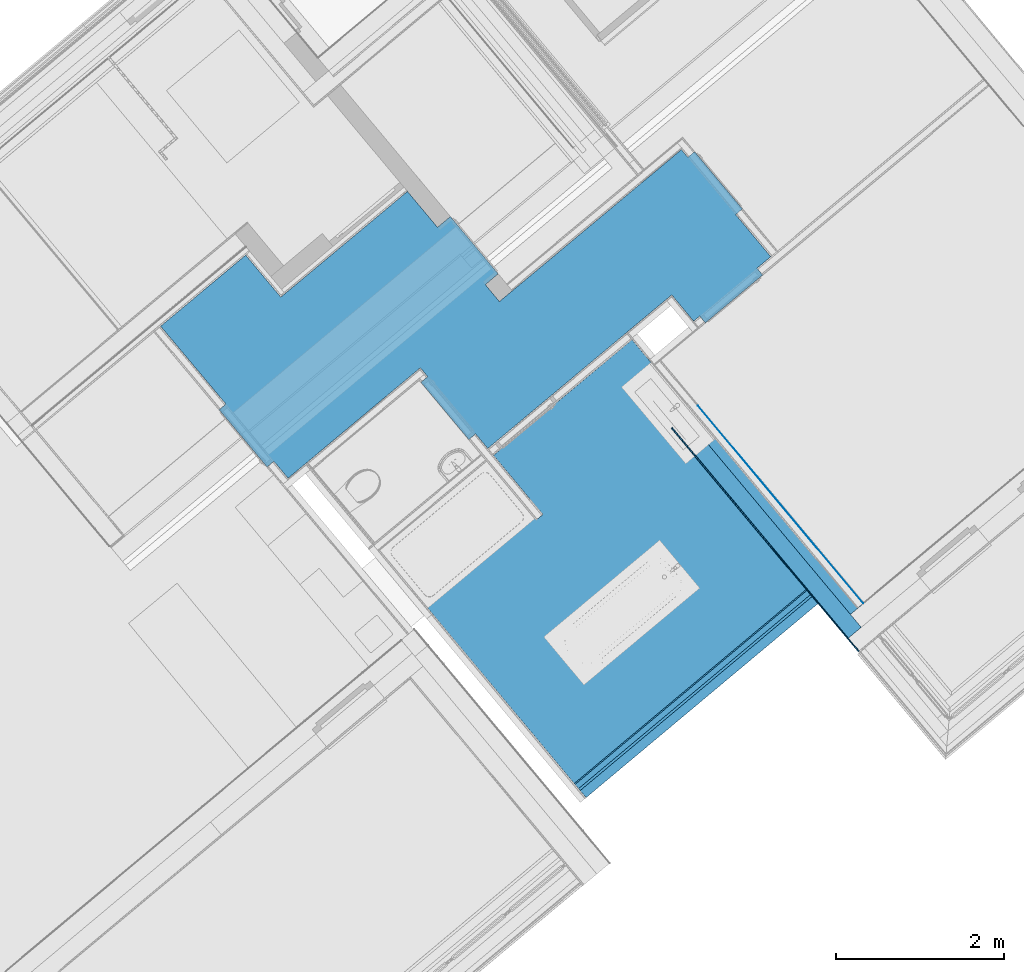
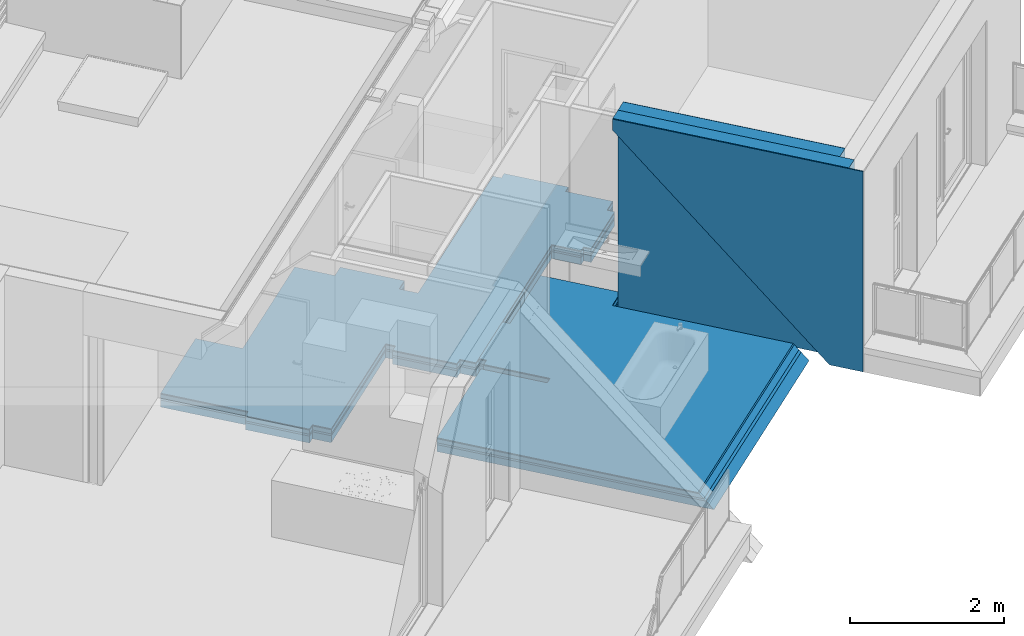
# One storey, part 26 of 50: 12 building element parts, 3 elements without a shape of their own.
"""IFC4 building model written with IfcOpenShell, lengths in metres."""

from ifc_helpers import new_model, entity, si_unit, converted_unit, derived_unit, direction, frame, origin_with_axes, place, context, subcontext, project, spatial, polygons, material, type_object, element, aggregate, save


model = new_model("IFC4")

# Units and contexts
model_context = context("Model", 3, precision=1e-05, world=origin_with_axes(), true_north=direction((0.0, 1.0)))
body_context = subcontext(model_context, "Body", "Model", "MODEL_VIEW")
ifc_project = project(units=[si_unit("LENGTHUNIT", "METRE"), si_unit("AREAUNIT", "SQUARE_METRE"), si_unit("VOLUMEUNIT", "CUBIC_METRE"), converted_unit("PLANEANGLEUNIT", "DEGREE", entity("IfcPlaneAngleMeasure", 0.0174532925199), si_unit("PLANEANGLEUNIT", "RADIAN"), dimensions=[0, 0, 0, 0, 0, 0, 0]), converted_unit("TIMEUNIT", "Year", entity("IfcTimeMeasure", 31556926.0), si_unit("TIMEUNIT", "SECOND"), dimensions=[0, 0, 1, 0, 0, 0, 0]), si_unit("MASSUNIT", "GRAM", prefix="KILO"), si_unit("THERMODYNAMICTEMPERATUREUNIT", "DEGREE_CELSIUS"), si_unit("LUMINOUSINTENSITYUNIT", "LUMEN"), si_unit("ENERGYUNIT", "JOULE", prefix="MEGA"), derived_unit("THERMALCONDUCTANCEUNIT", [(si_unit("POWERUNIT", "WATT"), 1), (si_unit("LENGTHUNIT", "METRE"), -1), (si_unit("THERMODYNAMICTEMPERATUREUNIT", "KELVIN"), -1)]), derived_unit("SPECIFICHEATCAPACITYUNIT", [(si_unit("ENERGYUNIT", "JOULE"), 1), (si_unit("MASSUNIT", "GRAM", prefix="KILO"), -1), (si_unit("THERMODYNAMICTEMPERATUREUNIT", "KELVIN"), -1)]), derived_unit("MASSDENSITYUNIT", [(si_unit("MASSUNIT", "GRAM", prefix="KILO"), 1), (si_unit("VOLUMEUNIT", "CUBIC_METRE"), -1)])], contexts=[model_context])

# Site, building, storey, space
site_placement = place(None, frame((-0.00153261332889, -0.00661245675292, 0.0), z_axis=(0.0, 0.0, 1.0), x_axis=(1.0, 0.0, 0.0)))
site = spatial("IfcSite", under=ifc_project, at=site_placement, Name="Gelände", CompositionType="ELEMENT")
building_placement = place(site_placement, origin_with_axes())
building = spatial("IfcBuilding", under=site, at=building_placement, Name="Gebäude", CompositionType="ELEMENT")
storey_placement = place(building_placement, frame((0.0, 0.0, 8.66), z_axis=(0.0, 0.0, 1.0), x_axis=(1.0, 0.0, 0.0)))
storey = spatial("IfcBuildingStorey", under=building, at=storey_placement, Name="DG2", CompositionType="ELEMENT", Elevation=8.66)
space_placement = place(storey_placement, frame((2.09467668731, 18.9197573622, 0.22), z_axis=(0.0, 0.0, 1.0), x_axis=(0.640870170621, -0.76764928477, 0.0)))
space = spatial("IfcSpace", under=storey, at=space_placement, CompositionType="ELEMENT", PredefinedType="NOTDEFINED")

# Wall, building element parts
wall_type = type_object("IfcWallType", Name="AW EG 420", PredefinedType="NOTDEFINED")
wall_placement = place(space_placement, frame((4.59525163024, 4.02347308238, -0.22), z_axis=(0.0, 0.0, 1.0), x_axis=(-0.999999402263, -0.0010933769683, 0.0)))
wall = element("IfcWall", 1, at=wall_placement, inside=space, type_object=wall_type, Name="Wand-002", PredefinedType="NOTDEFINED")
ifc_material_1 = material(Name="Zementputz")
building_element_part_1_placement = place(wall_placement, origin_with_axes())
building_element_part_1 = element("IfcBuildingElementPart", 2, at=building_element_part_1_placement, material=ifc_material_1, Name="Zementputz", PredefinedType="NOTDEFINED", context=body_context, shape_type="Tessellation", body=[
    polygons([(0.479130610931, 0.42, 0.0), (0.479129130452, 0.405, 0.0), (0.015, 0.405, 0.0), (0.015, 0.42, 0.0), (3.48674085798, 0.405, 3.00761171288), (3.48674085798, 0.42, 3.0076102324), (3.48674085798, 0.405, 3.18), (0.015, 0.405, 3.18), (0.015, 0.42, 3.18), (3.48674085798, 0.42, 3.18)], [[[1, 2, 3, 4]], [[5, 2, 1, 6]], [[2, 5, 7, 8, 3]], [[3, 8, 9, 4]], [[6, 1, 4, 9, 10]], [[5, 6, 10, 7]], [[8, 7, 10, 9]]], closed=True),
])
ifc_material_2 = material(Name="EPS 1")
building_element_part_2_placement = place(wall_placement, origin_with_axes())
building_element_part_2 = element("IfcBuildingElementPart", 3, at=building_element_part_2_placement, material=ifc_material_2, Name="EPS 1", PredefinedType="NOTDEFINED", context=body_context, shape_type="Tessellation", body=[
    polygons([(0.479129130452, 0.405, 0.0), (0.479109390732, 0.205, 0.0), (0.215, 0.205, 0.0), (0.215, 0.405, 0.0), (3.48674085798, 0.205, 3.0076314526), (3.48674085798, 0.405, 3.00761171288), (3.48674085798, 0.205, 3.18), (0.215, 0.205, 3.18), (0.215, 0.405, 3.18), (3.48674085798, 0.405, 3.18)], [[[1, 2, 3, 4]], [[5, 2, 1, 6]], [[2, 5, 7, 8, 3]], [[3, 8, 9, 4]], [[6, 1, 4, 9, 10]], [[5, 6, 10, 7]], [[8, 7, 10, 9]]], closed=True),
])
ifc_material_3 = material(Name="Stahlbeton Wand")
building_element_part_3_placement = place(wall_placement, origin_with_axes())
building_element_part_3 = element("IfcBuildingElementPart", 4, at=building_element_part_3_placement, material=ifc_material_3, Name="Stahlbeton Wand", PredefinedType="NOTDEFINED", context=body_context, shape_type="Tessellation", body=[
    polygons([(0.479109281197, 0.199813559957, 0.0), (3.48674085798, 0.198685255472, 0.0), (3.48674085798, 0.005, 0.0), (0.415, 0.005, 0.0), (0.415, 0.205, 0.0), (0.479109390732, 0.205, 0.0), (3.48674085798, 0.198685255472, 3.00763167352), (3.48674085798, 0.205, 3.0076314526), (3.48674085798, 0.205, 3.18), (3.48674085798, 0.005, 3.18), (0.415, 0.005, 3.18), (0.415, 0.205, 3.18)], [[[1, 2, 3, 4, 5, 6]], [[2, 1, 7]], [[7, 8, 9, 10, 3, 2]], [[4, 3, 10, 11]], [[4, 11, 12, 5]], [[8, 6, 5, 12, 9]], [[1, 6, 8, 7]], [[11, 10, 9, 12]]], closed=True),
])
building_element_part_4_placement = place(wall_placement, origin_with_axes())
building_element_part_4 = element("IfcBuildingElementPart", 5, at=building_element_part_4_placement, material=ifc_material_1, Name="Zementputz", PredefinedType="NOTDEFINED", context=body_context, shape_type="Tessellation", body=[
    polygons([(0.42, 0.0, 3.18), (3.48674085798, 0.0, 3.18), (3.48674085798, 0.005, 3.18), (0.42, 0.005, 3.18), (0.42, 0.0, 0.0), (3.48674085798, 0.0, 0.0), (3.48674085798, 0.005, 0.0), (0.42, 0.005, 0.0)], [[[1, 2, 3, 4]], [[5, 6, 2, 1]], [[3, 2, 6, 7]], [[4, 3, 7, 8]], [[5, 1, 4, 8]], [[8, 7, 6, 5]]], closed=True),
])
aggregate(wall, [building_element_part_1, building_element_part_2, building_element_part_3, building_element_part_4])

# Covering, building element parts
covering_type = type_object("IfcCoveringType", Name="DE 01 Decke Wohnung/Wohnung Fließen 220", PredefinedType="NOTDEFINED")
covering_1_placement = place(storey_placement, frame((-0.512281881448, 21.5903619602, 0.22), z_axis=(0.0, 0.0, 1.0), x_axis=(1.0, 0.0, 0.0)))
covering_1 = element("IfcCovering", 6, at=covering_1_placement, inside=storey, type_object=covering_type, Name="Decke-004", PredefinedType="NOTDEFINED")
ifc_material_4 = material(Name="Fliesen")
building_element_part_5_placement = place(covering_1_placement, origin_with_axes())
building_element_part_5 = element("IfcBuildingElementPart", 7, at=building_element_part_5_placement, material=ifc_material_4, Name="Fliesen", PredefinedType="NOTDEFINED", context=body_context, shape_type="Tessellation", body=[
    polygons([(1.26931301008, -1.67686102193, -0.015), (1.34976423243, -1.60938804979, -0.015), (1.34976423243, -1.60938804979, 0.0), (1.26931301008, -1.67686102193, 0.0), (0.697399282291, -0.994941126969, -0.015), (0.777850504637, -0.927468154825, -0.015), (0.0, 0.0, -0.015), (1.00913106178, 0.843125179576, -0.015), (1.01392494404, 0.847130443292, -0.015), (1.43208123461, 0.346703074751, -0.015), (1.4435962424, 0.356315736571, -0.015), (2.94076864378, 1.60614434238, -0.015), (3.29799445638, 1.17824883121, -0.015), (3.29801715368, 1.17827549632, -0.015), (3.45152463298, 1.30642248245, -0.015), (3.45155114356, 1.30644458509, -0.015), (4.02190344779, 0.623218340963, -0.015), (3.86836945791, 0.49504925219, -0.015), (4.03594835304, 0.29430602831, -0.015), (6.2030162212, 2.103358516, -0.015), (6.27925010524, 2.0121231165, -0.015), (6.35982447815, 2.07944889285, -0.015), (6.93049131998, 1.39648530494, -0.015), (6.84991694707, 1.32915942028, -0.015), (7.26867794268, 0.827993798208, -0.015), (7.10397840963, 0.690371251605, -0.015), (7.17130548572, 0.609797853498, -0.015), (6.48834980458, 0.0391213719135, -0.015), (6.42102283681, 0.119694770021, -0.015), (6.34875262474, 0.0593058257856, -0.015), (6.0975408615, 0.361146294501, -0.015), (6.09756346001, 0.361165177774, -0.015), (6.08796586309, 0.372651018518, -0.015), (6.0764348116, 0.363057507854, -0.015), (6.01642744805, 0.312915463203, -0.015), (3.89695327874, -1.4568744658, -0.015), (3.75186403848, -1.2832433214, -0.015), (3.67129139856, -1.35057126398, -0.015), (3.10060711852, -0.667622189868, -0.015), (3.18117975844, -0.600294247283, -0.015), (3.09378704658, -0.495709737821, -0.015), (1.51874814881, -1.81087559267, -0.015), (1.51874814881, -1.81087559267, 0.0), (0.697399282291, -0.994941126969, 0.0), (3.09378704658, -0.495709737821, 0.0), (3.18117975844, -0.600294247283, 0.0), (3.10060711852, -0.667622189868, 0.0), (3.67129139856, -1.35057126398, 0.0), (3.75186403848, -1.2832433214, 0.0), (3.89695327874, -1.4568744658, 0.0), (6.01642744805, 0.312915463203, 0.0), (6.0764348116, 0.363057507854, 0.0), (6.08794747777, 0.372635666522, 0.0), (6.08796586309, 0.372651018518, 0.0), (6.09756346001, 0.361165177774, 0.0), (6.0975408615, 0.361146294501, 0.0), (6.34875262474, 0.0593058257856, 0.0), (6.42102283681, 0.119694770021, 0.0), (6.48834980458, 0.0391213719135, 0.0), (7.17130548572, 0.609797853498, 0.0), (7.10397840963, 0.690371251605, 0.0), (7.26867794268, 0.827993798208, 0.0), (6.84991694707, 1.32915942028, 0.0), (6.93049131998, 1.39648530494, 0.0), (6.35982447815, 2.07944889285, 0.0), (6.27925010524, 2.0121231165, 0.0), (6.2030162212, 2.103358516, 0.0), (4.03594835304, 0.29430602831, 0.0), (3.86836945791, 0.49504925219, 0.0), (4.02190344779, 0.623218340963, 0.0), (3.45155114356, 1.30644458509, 0.0), (3.45152463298, 1.30642248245, 0.0), (3.29801715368, 1.17827549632, 0.0), (3.29799445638, 1.17824883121, 0.0), (2.94076864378, 1.60614434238, 0.0), (1.4435962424, 0.35631573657, 0.0), (1.43208123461, 0.346703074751, 0.0), (1.01392494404, 0.847130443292, 0.0), (1.00913106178, 0.843125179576, 0.0), (0.0, 0.0, 0.0), (0.777850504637, -0.927468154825, 0.0)], [[[1, 2, 3, 4]], [[2, 1, 5, 6, 7, 8, 9, 10, 11, 12, 13, 14, 15, 16, 17, 18, 19, 20, 21, 22, 23, 24, 25, 26, 27, 28, 29, 30, 31, 32, 33, 34, 35, 36, 37, 38, 39, 40, 41, 42]], [[2, 42, 43, 3]], [[44, 4, 3, 43, 45, 46, 47, 48, 49, 50, 51, 52, 53, 54, 55, 56, 57, 58, 59, 60, 61, 62, 63, 64, 65, 66, 67, 68, 69, 70, 71, 72, 73, 74, 75, 76, 77, 78, 79, 80, 81]], [[1, 4, 44, 5]], [[5, 44, 81, 6]], [[7, 6, 81, 80]], [[7, 80, 79, 78, 9, 8]], [[77, 10, 9, 78]], [[10, 77, 76, 11]], [[11, 76, 75, 12]], [[74, 13, 12, 75]], [[14, 13, 74, 73]], [[15, 14, 73, 72]], [[16, 15, 72, 71]], [[17, 16, 71, 70]], [[69, 18, 17, 70]], [[19, 18, 69, 68]], [[19, 68, 67, 20]], [[21, 20, 67, 66]], [[22, 21, 66, 65]], [[23, 22, 65, 64]], [[63, 24, 23, 64]], [[62, 25, 24, 63]], [[61, 26, 25, 62]], [[27, 26, 61, 60]], [[59, 28, 27, 60]], [[29, 28, 59, 58]], [[30, 29, 58, 57]], [[56, 31, 30, 57]], [[32, 31, 56, 55]], [[32, 55, 54, 33]], [[34, 33, 54, 53, 52]], [[35, 34, 52, 51]], [[36, 35, 51, 50]], [[37, 36, 50, 49]], [[38, 37, 49, 48]], [[39, 38, 48, 47]], [[40, 39, 47, 46]], [[40, 46, 45, 41]], [[43, 42, 41, 45]]], closed=True),
])
ifc_material_5 = material(Name="Estrich")
building_element_part_6_placement = place(covering_1_placement, origin_with_axes())
building_element_part_6 = element("IfcBuildingElementPart", 8, at=building_element_part_6_placement, material=ifc_material_5, Name="Estrich", PredefinedType="NOTDEFINED", context=body_context, shape_type="Tessellation", body=[
    polygons([(1.26931301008, -1.67686102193, -0.08), (1.34976423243, -1.60938804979, -0.08), (1.34976423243, -1.60938804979, -0.015), (1.26931301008, -1.67686102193, -0.015), (0.697399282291, -0.994941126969, -0.08), (0.777850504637, -0.927468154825, -0.08), (0.0, 0.0, -0.08), (1.00913106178, 0.843125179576, -0.08), (1.01392494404, 0.847130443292, -0.08), (1.43208123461, 0.346703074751, -0.08), (1.4435962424, 0.356315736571, -0.08), (2.94076864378, 1.60614434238, -0.08), (3.29799445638, 1.17824883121, -0.08), (3.29801715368, 1.17827549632, -0.08), (3.45152463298, 1.30642248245, -0.08), (3.45155114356, 1.30644458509, -0.08), (4.02190344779, 0.623218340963, -0.08), (3.86836945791, 0.49504925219, -0.08), (4.03594835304, 0.29430602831, -0.08), (6.2030162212, 2.103358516, -0.08), (6.27925010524, 2.0121231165, -0.08), (6.35982447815, 2.07944889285, -0.08), (6.93049131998, 1.39648530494, -0.08), (6.84991694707, 1.32915942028, -0.08), (7.26867794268, 0.827993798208, -0.08), (7.10397840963, 0.690371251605, -0.08), (7.17130548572, 0.609797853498, -0.08), (6.48834980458, 0.0391213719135, -0.08), (6.42102283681, 0.119694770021, -0.08), (6.34875262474, 0.0593058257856, -0.08), (6.0975408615, 0.361146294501, -0.08), (6.09756346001, 0.361165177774, -0.08), (6.08796586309, 0.372651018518, -0.08), (6.0764348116, 0.363057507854, -0.08), (6.01642744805, 0.312915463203, -0.08), (3.89695327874, -1.4568744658, -0.08), (3.75186403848, -1.2832433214, -0.08), (3.67129139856, -1.35057126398, -0.08), (3.10060711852, -0.667622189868, -0.08), (3.18117975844, -0.600294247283, -0.08), (3.09378704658, -0.495709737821, -0.08), (1.51874814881, -1.81087559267, -0.08), (1.51874814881, -1.81087559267, -0.015), (3.09378704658, -0.495709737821, -0.015), (3.18117975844, -0.600294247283, -0.015), (3.10060711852, -0.667622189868, -0.015), (3.67129139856, -1.35057126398, -0.015), (3.75186403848, -1.2832433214, -0.015), (3.89695327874, -1.4568744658, -0.015), (6.01642744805, 0.312915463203, -0.015), (6.0764348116, 0.363057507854, -0.015), (6.08796586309, 0.372651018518, -0.015), (6.09756346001, 0.361165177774, -0.015), (6.0975408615, 0.361146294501, -0.015), (6.34875262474, 0.0593058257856, -0.015), (6.42102283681, 0.119694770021, -0.015), (6.48834980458, 0.0391213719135, -0.015), (7.17130548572, 0.609797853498, -0.015), (7.10397840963, 0.690371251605, -0.015), (7.26867794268, 0.827993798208, -0.015), (6.84991694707, 1.32915942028, -0.015), (6.93049131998, 1.39648530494, -0.015), (6.35982447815, 2.07944889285, -0.015), (6.27925010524, 2.0121231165, -0.015), (6.2030162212, 2.103358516, -0.015), (4.03594835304, 0.29430602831, -0.015), (3.86836945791, 0.49504925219, -0.015), (4.02190344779, 0.623218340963, -0.015), (3.45155114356, 1.30644458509, -0.015), (3.45152463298, 1.30642248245, -0.015), (3.29801715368, 1.17827549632, -0.015), (3.29799445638, 1.17824883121, -0.015), (2.94076864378, 1.60614434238, -0.015), (1.4435962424, 0.356315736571, -0.015), (1.43208123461, 0.346703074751, -0.015), (1.01392494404, 0.847130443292, -0.015), (1.00913106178, 0.843125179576, -0.015), (0.0, 0.0, -0.015), (0.777850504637, -0.927468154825, -0.015), (0.697399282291, -0.994941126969, -0.015)], [[[1, 2, 3, 4]], [[2, 1, 5, 6, 7, 8, 9, 10, 11, 12, 13, 14, 15, 16, 17, 18, 19, 20, 21, 22, 23, 24, 25, 26, 27, 28, 29, 30, 31, 32, 33, 34, 35, 36, 37, 38, 39, 40, 41, 42]], [[2, 42, 43, 3]], [[4, 3, 43, 44, 45, 46, 47, 48, 49, 50, 51, 52, 53, 54, 55, 56, 57, 58, 59, 60, 61, 62, 63, 64, 65, 66, 67, 68, 69, 70, 71, 72, 73, 74, 75, 76, 77, 78, 79, 80]], [[80, 5, 1, 4]], [[5, 80, 79, 6]], [[7, 6, 79, 78]], [[7, 78, 77, 76, 9, 8]], [[75, 10, 9, 76]], [[10, 75, 74, 11]], [[11, 74, 73, 12]], [[72, 13, 12, 73]], [[13, 72, 71, 14]], [[14, 71, 70, 15]], [[16, 15, 70, 69]], [[17, 16, 69, 68]], [[67, 18, 17, 68]], [[19, 18, 67, 66]], [[19, 66, 65, 20]], [[21, 20, 65, 64]], [[22, 21, 64, 63]], [[23, 22, 63, 62]], [[24, 23, 62, 61]], [[25, 24, 61, 60]], [[26, 25, 60, 59]], [[58, 27, 26, 59]], [[57, 28, 27, 58]], [[29, 28, 57, 56]], [[30, 29, 56, 55]], [[54, 31, 30, 55]], [[32, 31, 54, 53]], [[32, 53, 52, 33]], [[34, 33, 52, 51]], [[35, 34, 51, 50]], [[36, 35, 50, 49]], [[37, 36, 49, 48]], [[38, 37, 48, 47]], [[39, 38, 47, 46]], [[40, 39, 46, 45]], [[41, 40, 45, 44]], [[43, 42, 41, 44]]], closed=True),
])
ifc_material_6 = material(Name="Trittschalldämmung")
building_element_part_7_placement = place(covering_1_placement, origin_with_axes())
building_element_part_7 = element("IfcBuildingElementPart", 9, at=building_element_part_7_placement, material=ifc_material_6, Name="Trittschalldämmung", PredefinedType="NOTDEFINED", context=body_context, shape_type="Tessellation", body=[
    polygons([(1.26931301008, -1.67686102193, -0.11), (1.34976423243, -1.60938804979, -0.11), (1.34976423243, -1.60938804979, -0.08), (1.26931301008, -1.67686102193, -0.08), (0.697399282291, -0.994941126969, -0.11), (0.777850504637, -0.927468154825, -0.11), (0.0, 0.0, -0.11), (1.00913106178, 0.843125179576, -0.11), (1.01392494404, 0.847130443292, -0.11), (1.43208123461, 0.346703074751, -0.11), (1.4435962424, 0.356315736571, -0.11), (2.94076864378, 1.60614434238, -0.11), (3.29799445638, 1.17824883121, -0.11), (3.29801715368, 1.17827549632, -0.11), (3.45152463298, 1.30642248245, -0.11), (3.45155114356, 1.30644458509, -0.11), (4.02190344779, 0.623218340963, -0.11), (3.86836945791, 0.49504925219, -0.11), (4.03594835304, 0.29430602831, -0.11), (6.2030162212, 2.103358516, -0.11), (6.27925010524, 2.0121231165, -0.11), (6.35982447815, 2.07944889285, -0.11), (6.93049131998, 1.39648530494, -0.11), (6.84991694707, 1.32915942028, -0.11), (7.26867794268, 0.827993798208, -0.11), (7.10397840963, 0.690371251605, -0.11), (7.17130548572, 0.609797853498, -0.11), (6.48834980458, 0.0391213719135, -0.11), (6.42102283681, 0.119694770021, -0.11), (6.34875262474, 0.0593058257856, -0.11), (6.0975408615, 0.361146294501, -0.11), (6.09756346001, 0.361165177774, -0.11), (6.08796586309, 0.372651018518, -0.11), (6.0764348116, 0.363057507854, -0.11), (6.01642744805, 0.312915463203, -0.11), (3.89695327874, -1.4568744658, -0.11), (3.75186403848, -1.2832433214, -0.11), (3.67129139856, -1.35057126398, -0.11), (3.10060711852, -0.667622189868, -0.11), (3.18117975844, -0.600294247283, -0.11), (3.09378704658, -0.495709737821, -0.11), (1.51874814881, -1.81087559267, -0.11), (1.51874814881, -1.81087559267, -0.08), (3.09378704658, -0.495709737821, -0.08), (3.18117975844, -0.600294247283, -0.08), (3.10060711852, -0.667622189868, -0.08), (3.67129139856, -1.35057126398, -0.08), (3.75186403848, -1.2832433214, -0.08), (3.89695327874, -1.4568744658, -0.08), (6.01642744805, 0.312915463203, -0.08), (6.0764348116, 0.363057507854, -0.08), (6.08796586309, 0.372651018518, -0.08), (6.09756346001, 0.361165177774, -0.08), (6.0975408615, 0.361146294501, -0.08), (6.34875262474, 0.0593058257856, -0.08), (6.42102283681, 0.119694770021, -0.08), (6.48834980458, 0.0391213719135, -0.08), (7.17130548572, 0.609797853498, -0.08), (7.10397840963, 0.690371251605, -0.08), (7.26867794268, 0.827993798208, -0.08), (6.84991694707, 1.32915942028, -0.08), (6.93049131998, 1.39648530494, -0.08), (6.35982447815, 2.07944889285, -0.08), (6.27925010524, 2.0121231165, -0.08), (6.2030162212, 2.103358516, -0.08), (4.03594835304, 0.29430602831, -0.08), (3.86836945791, 0.49504925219, -0.08), (4.02190344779, 0.623218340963, -0.08), (3.45155114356, 1.30644458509, -0.08), (3.45152463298, 1.30642248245, -0.08), (3.29801715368, 1.17827549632, -0.08), (3.29799445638, 1.17824883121, -0.08), (2.94076864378, 1.60614434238, -0.08), (1.4435962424, 0.356315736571, -0.08), (1.43208123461, 0.346703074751, -0.08), (1.01392494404, 0.847130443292, -0.08), (1.00913106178, 0.843125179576, -0.08), (0.0, 0.0, -0.08), (0.777850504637, -0.927468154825, -0.08), (0.697399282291, -0.994941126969, -0.08)], [[[1, 2, 3, 4]], [[2, 1, 5, 6, 7, 8, 9, 10, 11, 12, 13, 14, 15, 16, 17, 18, 19, 20, 21, 22, 23, 24, 25, 26, 27, 28, 29, 30, 31, 32, 33, 34, 35, 36, 37, 38, 39, 40, 41, 42]], [[2, 42, 43, 3]], [[4, 3, 43, 44, 45, 46, 47, 48, 49, 50, 51, 52, 53, 54, 55, 56, 57, 58, 59, 60, 61, 62, 63, 64, 65, 66, 67, 68, 69, 70, 71, 72, 73, 74, 75, 76, 77, 78, 79, 80]], [[80, 5, 1, 4]], [[5, 80, 79, 6]], [[7, 6, 79, 78]], [[7, 78, 77, 76, 9, 8]], [[75, 10, 9, 76]], [[10, 75, 74, 11]], [[11, 74, 73, 12]], [[72, 13, 12, 73]], [[13, 72, 71, 14]], [[14, 71, 70, 15]], [[16, 15, 70, 69]], [[17, 16, 69, 68]], [[67, 18, 17, 68]], [[19, 18, 67, 66]], [[19, 66, 65, 20]], [[21, 20, 65, 64]], [[22, 21, 64, 63]], [[23, 22, 63, 62]], [[24, 23, 62, 61]], [[60, 25, 24, 61]], [[59, 26, 25, 60]], [[27, 26, 59, 58]], [[57, 28, 27, 58]], [[29, 28, 57, 56]], [[30, 29, 56, 55]], [[54, 31, 30, 55]], [[32, 31, 54, 53]], [[32, 53, 52, 33]], [[34, 33, 52, 51]], [[35, 34, 51, 50]], [[36, 35, 50, 49]], [[37, 36, 49, 48]], [[38, 37, 48, 47]], [[39, 38, 47, 46]], [[40, 39, 46, 45]], [[41, 40, 45, 44]], [[43, 42, 41, 44]]], closed=True),
])
ifc_material_7 = material(Name="Schüttung")
building_element_part_8_placement = place(covering_1_placement, origin_with_axes())
building_element_part_8 = element("IfcBuildingElementPart", 10, at=building_element_part_8_placement, material=ifc_material_7, Name="Schüttung", PredefinedType="NOTDEFINED", context=body_context, shape_type="Tessellation", body=[
    polygons([(0.697399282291, -0.994941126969, -0.22), (1.26931301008, -1.67686102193, -0.22), (1.26931301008, -1.67686102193, -0.11), (0.697399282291, -0.994941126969, -0.11), (0.777850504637, -0.927468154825, -0.22), (0.0, 0.0, -0.22), (1.00913106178, 0.843125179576, -0.22), (1.01392494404, 0.847130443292, -0.22), (1.43208123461, 0.346703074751, -0.22), (1.44359623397, 0.356315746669, -0.22), (2.94076863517, 1.6061443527, -0.22), (3.29799445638, 1.17824883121, -0.22), (3.29801715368, 1.17827549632, -0.22), (3.4515246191, 1.30642249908, -0.22), (3.45155114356, 1.30644458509, -0.22), (4.02190344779, 0.623218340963, -0.22), (3.86836945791, 0.49504925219, -0.22), (4.03594835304, 0.29430602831, -0.22), (6.2030162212, 2.103358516, -0.22), (6.27925010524, 2.0121231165, -0.22), (6.35982447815, 2.07944889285, -0.22), (6.93049131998, 1.39648530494, -0.22), (6.84991694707, 1.32915942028, -0.22), (7.26867794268, 0.827993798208, -0.22), (7.10397840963, 0.690371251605, -0.22), (7.17130548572, 0.609797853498, -0.22), (6.48834980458, 0.0391213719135, -0.22), (6.42102283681, 0.119694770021, -0.22), (6.34875262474, 0.0593058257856, -0.22), (6.09754084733, 0.36114628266, -0.22), (6.09756346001, 0.361165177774, -0.22), (6.08796586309, 0.372651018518, -0.22), (6.08794747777, 0.372635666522, -0.22), (6.0764348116, 0.363057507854, -0.22), (6.01642744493, 0.312915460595, -0.22), (3.89695327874, -1.4568744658, -0.22), (3.75186403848, -1.2832433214, -0.22), (3.67129139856, -1.35057126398, -0.22), (3.10060711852, -0.667622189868, -0.22), (3.18117975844, -0.600294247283, -0.22), (3.09378704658, -0.495709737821, -0.22), (1.51874814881, -1.81087559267, -0.22), (1.34976423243, -1.60938804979, -0.22), (1.34976423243, -1.60938804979, -0.11), (1.51874814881, -1.81087559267, -0.11), (3.09378704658, -0.495709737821, -0.11), (3.18117975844, -0.600294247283, -0.11), (3.10060711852, -0.667622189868, -0.11), (3.67129139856, -1.35057126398, -0.11), (3.75186403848, -1.2832433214, -0.11), (3.89695327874, -1.4568744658, -0.11), (6.01642744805, 0.312915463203, -0.11), (6.0764348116, 0.363057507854, -0.11), (6.08796586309, 0.372651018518, -0.11), (6.09756346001, 0.361165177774, -0.11), (6.0975408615, 0.361146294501, -0.11), (6.34875262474, 0.0593058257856, -0.11), (6.42102283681, 0.119694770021, -0.11), (6.48834980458, 0.0391213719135, -0.11), (7.17130548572, 0.609797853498, -0.11), (7.10397840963, 0.690371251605, -0.11), (7.26867794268, 0.827993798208, -0.11), (6.84991694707, 1.32915942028, -0.11), (6.93049131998, 1.39648530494, -0.11), (6.35982447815, 2.07944889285, -0.11), (6.27925010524, 2.0121231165, -0.11), (6.2030162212, 2.103358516, -0.11), (4.03594835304, 0.29430602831, -0.11), (3.86836945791, 0.49504925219, -0.11), (4.02190344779, 0.623218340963, -0.11), (3.45155114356, 1.30644458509, -0.11), (3.45152463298, 1.30642248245, -0.11), (3.29801715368, 1.17827549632, -0.11), (3.29799445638, 1.17824883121, -0.11), (2.94076864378, 1.60614434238, -0.11), (1.4435962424, 0.356315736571, -0.11), (1.43208123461, 0.346703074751, -0.11), (1.01392494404, 0.847130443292, -0.11), (1.00913106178, 0.843125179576, -0.11), (0.0, 0.0, -0.11), (0.777850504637, -0.927468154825, -0.11)], [[[1, 2, 3, 4]], [[2, 1, 5, 6, 7, 8, 9, 10, 11, 12, 13, 14, 15, 16, 17, 18, 19, 20, 21, 22, 23, 24, 25, 26, 27, 28, 29, 30, 31, 32, 33, 34, 35, 36, 37, 38, 39, 40, 41, 42, 43]], [[2, 43, 44, 3]], [[3, 44, 45, 46, 47, 48, 49, 50, 51, 52, 53, 54, 55, 56, 57, 58, 59, 60, 61, 62, 63, 64, 65, 66, 67, 68, 69, 70, 71, 72, 73, 74, 75, 76, 77, 78, 79, 80, 81, 4]], [[5, 1, 4, 81]], [[6, 5, 81, 80]], [[6, 80, 79, 78, 8, 7]], [[77, 9, 8, 78]], [[9, 77, 76, 10]], [[10, 76, 75, 11]], [[74, 12, 11, 75]], [[13, 12, 74, 73]], [[13, 73, 72, 14]], [[15, 14, 72, 71]], [[16, 15, 71, 70]], [[17, 16, 70, 69]], [[18, 17, 69, 68]], [[18, 68, 67, 19]], [[20, 19, 67, 66]], [[21, 20, 66, 65]], [[22, 21, 65, 64]], [[23, 22, 64, 63]], [[24, 23, 63, 62]], [[25, 24, 62, 61]], [[60, 26, 25, 61]], [[27, 26, 60, 59]], [[28, 27, 59, 58]], [[29, 28, 58, 57]], [[56, 30, 29, 57]], [[31, 30, 56, 55]], [[31, 55, 54, 32]], [[54, 53, 34, 33, 32]], [[35, 34, 53, 52]], [[36, 35, 52, 51]], [[37, 36, 51, 50]], [[38, 37, 50, 49]], [[39, 38, 49, 48]], [[40, 39, 48, 47]], [[41, 40, 47, 46]], [[45, 42, 41, 46]], [[43, 42, 45, 44]]], closed=True),
])
aggregate(covering_1, [building_element_part_5, building_element_part_6, building_element_part_7, building_element_part_8])

covering_2_placement = place(storey_placement, frame((2.09467668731, 18.9197573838, 0.22), z_axis=(0.0, 0.0, 1.0), x_axis=(1.0, 0.0, 0.0)))
covering_2 = element("IfcCovering", 11, at=covering_2_placement, inside=storey, type_object=covering_type, Name="Decke-004", PredefinedType="NOTDEFINED")
building_element_part_9_placement = place(covering_2_placement, origin_with_axes())
building_element_part_9 = element("IfcBuildingElementPart", 12, at=building_element_part_9_placement, material=ifc_material_4, Name="Fliesen", PredefinedType="NOTDEFINED", context=body_context, shape_type="Tessellation", body=[
    polygons([(5.08131622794, -0.465412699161, 0.0), (5.09094186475, -0.476916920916, -0.015), (3.47398432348, 1.4556137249, -0.015), (3.47398432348, 1.4556137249, 0.0), (2.32907797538, -2.787318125, -0.015), (2.3194598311, -2.77580763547, 0.0), (-1.06147570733e-08, -8.86967299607e-09, -0.015), (1.2767194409, 1.06586618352, -0.015), (1.86547422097, 0.361291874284, -0.015), (1.94604688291, 0.428619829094, -0.015), (1.35732264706, 1.13315751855, -0.015), (1.4371327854, 1.19978686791, -0.015), (1.36984145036, 1.28038999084, -0.015), (2.05304928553, 1.85076447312, -0.015), (2.12034062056, 1.77016126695, -0.015), (3.00782256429, 2.51107347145, -0.015), (3.25962648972, 2.20972776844, -0.015), (3.26924463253, 2.19821728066, -0.015), (3.71929949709, 1.66087009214, -0.015), (3.71929949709, 1.66087009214, 0.0), (3.26924463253, 2.19821728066, 0.0), (3.25962648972, 2.20972776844, 0.0), (3.00782256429, 2.51107347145, 0.0), (2.12034062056, 1.77016126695, 0.0), (2.05304928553, 1.85076447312, 0.0), (1.36984145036, 1.28038999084, 0.0), (1.4371327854, 1.19978686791, 0.0), (1.35732264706, 1.13315751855, 0.0), (1.94604688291, 0.428619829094, 0.0), (1.86547422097, 0.361291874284, 0.0), (1.2767194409, 1.06586618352, 0.0), (-1.06147570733e-08, -8.86967299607e-09, 0.0)], [[[1, 2, 3, 4]], [[5, 2, 1, 6]], [[2, 5, 7, 8, 9, 10, 11, 12, 13, 14, 15, 16, 17, 18, 19, 3]], [[3, 19, 20, 4]], [[6, 1, 4, 20, 21, 22, 23, 24, 25, 26, 27, 28, 29, 30, 31, 32]], [[5, 6, 32, 7]], [[8, 7, 32, 31]], [[30, 9, 8, 31]], [[29, 10, 9, 30]], [[28, 11, 10, 29]], [[27, 12, 11, 28]], [[26, 13, 12, 27]], [[25, 14, 13, 26]], [[24, 15, 14, 25]], [[24, 23, 16, 15]], [[16, 23, 22, 17]], [[18, 17, 22, 21]], [[19, 18, 21, 20]]], closed=True),
])
building_element_part_10_placement = place(covering_2_placement, origin_with_axes())
building_element_part_10 = element("IfcBuildingElementPart", 13, at=building_element_part_10_placement, material=ifc_material_5, Name="Estrich", PredefinedType="NOTDEFINED", context=body_context, shape_type="Tessellation", body=[
    polygons([(5.09094186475, -0.476916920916, -0.015), (5.13265295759, -0.526768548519, -0.08), (3.47398432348, 1.4556137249, -0.08), (3.47398432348, 1.4556137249, -0.015), (2.37075660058, -2.83719691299, -0.08), (2.32907797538, -2.787318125, -0.015), (-1.06147570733e-08, -8.86967299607e-09, -0.08), (1.2767194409, 1.06586618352, -0.08), (1.86547422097, 0.361291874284, -0.08), (1.94604688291, 0.428619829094, -0.08), (1.35732264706, 1.13315751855, -0.08), (1.4371327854, 1.19978686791, -0.08), (1.36984145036, 1.28038999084, -0.08), (2.05304928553, 1.85076447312, -0.08), (2.12034062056, 1.77016126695, -0.08), (3.00782256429, 2.51107347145, -0.08), (3.25962648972, 2.20972776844, -0.08), (3.26924463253, 2.19821728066, -0.08), (3.71929949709, 1.66087009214, -0.08), (3.71929949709, 1.66087009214, -0.015), (3.26924463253, 2.19821728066, -0.015), (3.25962648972, 2.20972776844, -0.015), (3.00782256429, 2.51107347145, -0.015), (2.12034062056, 1.77016126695, -0.015), (2.05304928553, 1.85076447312, -0.015), (1.36984145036, 1.28038999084, -0.015), (1.4371327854, 1.19978686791, -0.015), (1.35732264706, 1.13315751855, -0.015), (1.94604688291, 0.428619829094, -0.015), (1.86547422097, 0.361291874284, -0.015), (1.2767194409, 1.06586618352, -0.015), (-1.06147570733e-08, -8.86967299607e-09, -0.015)], [[[1, 2, 3, 4]], [[5, 2, 1, 6]], [[2, 5, 7, 8, 9, 10, 11, 12, 13, 14, 15, 16, 17, 18, 19, 3]], [[3, 19, 20, 4]], [[6, 1, 4, 20, 21, 22, 23, 24, 25, 26, 27, 28, 29, 30, 31, 32]], [[5, 6, 32, 7]], [[8, 7, 32, 31]], [[30, 9, 8, 31]], [[29, 10, 9, 30]], [[28, 11, 10, 29]], [[27, 12, 11, 28]], [[26, 13, 12, 27]], [[25, 14, 13, 26]], [[24, 15, 14, 25]], [[24, 23, 16, 15]], [[16, 23, 22, 17]], [[18, 17, 22, 21]], [[19, 18, 21, 20]]], closed=True),
])
building_element_part_11_placement = place(covering_2_placement, origin_with_axes())
building_element_part_11 = element("IfcBuildingElementPart", 14, at=building_element_part_11_placement, material=ifc_material_6, Name="Trittschalldämmung", PredefinedType="NOTDEFINED", context=body_context, shape_type="Tessellation", body=[
    polygons([(5.13265295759, -0.526768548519, -0.08), (5.15190423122, -0.549776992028, -0.11), (3.47398432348, 1.4556137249, -0.11), (3.47398432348, 1.4556137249, -0.08), (2.38999288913, -2.86021789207, -0.11), (2.37075660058, -2.83719691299, -0.08), (-1.06147570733e-08, -8.86967299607e-09, -0.11), (1.2767194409, 1.06586618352, -0.11), (1.86547422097, 0.361291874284, -0.11), (1.94604688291, 0.428619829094, -0.11), (1.35732264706, 1.13315751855, -0.11), (1.4371327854, 1.19978686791, -0.11), (1.36984145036, 1.28038999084, -0.11), (2.05304928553, 1.85076447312, -0.11), (2.12034062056, 1.77016126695, -0.11), (3.00782256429, 2.51107347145, -0.11), (3.25962648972, 2.20972776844, -0.11), (3.26924463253, 2.19821728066, -0.11), (3.71929949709, 1.66087009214, -0.11), (3.71929949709, 1.66087009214, -0.08), (3.26924463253, 2.19821728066, -0.08), (3.25962648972, 2.20972776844, -0.08), (3.00782256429, 2.51107347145, -0.08), (2.12034062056, 1.77016126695, -0.08), (2.05304928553, 1.85076447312, -0.08), (1.36984145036, 1.28038999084, -0.08), (1.4371327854, 1.19978686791, -0.08), (1.35732264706, 1.13315751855, -0.08), (1.94604688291, 0.428619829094, -0.08), (1.86547422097, 0.361291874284, -0.08), (1.2767194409, 1.06586618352, -0.08), (-1.06147570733e-08, -8.86967299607e-09, -0.08)], [[[1, 2, 3, 4]], [[5, 2, 1, 6]], [[2, 5, 7, 8, 9, 10, 11, 12, 13, 14, 15, 16, 17, 18, 19, 3]], [[3, 19, 20, 4]], [[6, 1, 4, 20, 21, 22, 23, 24, 25, 26, 27, 28, 29, 30, 31, 32]], [[5, 6, 32, 7]], [[8, 7, 32, 31]], [[30, 9, 8, 31]], [[29, 10, 9, 30]], [[28, 11, 10, 29]], [[27, 12, 11, 28]], [[26, 13, 12, 27]], [[25, 14, 13, 26]], [[24, 15, 14, 25]], [[24, 23, 16, 15]], [[16, 23, 22, 17]], [[18, 17, 22, 21]], [[19, 18, 21, 20]]], closed=True),
])
building_element_part_12_placement = place(covering_2_placement, origin_with_axes())
building_element_part_12 = element("IfcBuildingElementPart", 15, at=building_element_part_12_placement, material=ifc_material_7, Name="Schüttung", PredefinedType="NOTDEFINED", context=body_context, shape_type="Tessellation", body=[
    polygons([(5.15190423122, -0.549776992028, -0.11), (5.22249223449, -0.634141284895, -0.22), (3.47398432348, 1.4556137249, -0.22), (3.47398432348, 1.4556137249, -0.11), (2.46052594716, -2.94462814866, -0.22), (2.38999288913, -2.86021789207, -0.11), (-1.06147566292e-08, -8.86967299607e-09, -0.22), (1.2767194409, 1.06586618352, -0.22), (1.86547422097, 0.361291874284, -0.22), (1.94604688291, 0.428619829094, -0.22), (1.35732264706, 1.13315751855, -0.22), (1.4371327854, 1.19978686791, -0.22), (1.36984145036, 1.28038999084, -0.22), (2.05304928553, 1.85076447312, -0.22), (2.12034062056, 1.77016126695, -0.22), (3.00782256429, 2.51107347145, -0.22), (3.25962648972, 2.20972776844, -0.22), (3.26924463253, 2.19821728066, -0.22), (3.71929949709, 1.66087009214, -0.22), (3.71929949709, 1.66087009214, -0.11), (3.26924463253, 2.19821728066, -0.11), (3.25962648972, 2.20972776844, -0.11), (3.00782256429, 2.51107347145, -0.11), (2.12034062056, 1.77016126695, -0.11), (2.05304928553, 1.85076447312, -0.11), (1.36984145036, 1.28038999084, -0.11), (1.4371327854, 1.19978686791, -0.11), (1.35732264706, 1.13315751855, -0.11), (1.94604688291, 0.428619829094, -0.11), (1.86547422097, 0.361291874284, -0.11), (1.2767194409, 1.06586618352, -0.11), (-1.06147570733e-08, -8.86967299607e-09, -0.11)], [[[1, 2, 3, 4]], [[5, 2, 1, 6]], [[2, 5, 7, 8, 9, 10, 11, 12, 13, 14, 15, 16, 17, 18, 19, 3]], [[19, 20, 4, 3]], [[6, 1, 4, 20, 21, 22, 23, 24, 25, 26, 27, 28, 29, 30, 31, 32]], [[5, 6, 32, 7]], [[32, 31, 8, 7]], [[31, 30, 9, 8]], [[30, 29, 10, 9]], [[29, 28, 11, 10]], [[28, 27, 12, 11]], [[27, 26, 13, 12]], [[26, 25, 14, 13]], [[25, 24, 15, 14]], [[24, 23, 16, 15]], [[16, 23, 22, 17]], [[18, 17, 22, 21]], [[20, 19, 18, 21]]], closed=True),
])
aggregate(covering_2, [building_element_part_9, building_element_part_10, building_element_part_11, building_element_part_12])

save(model, "model.ifc")
